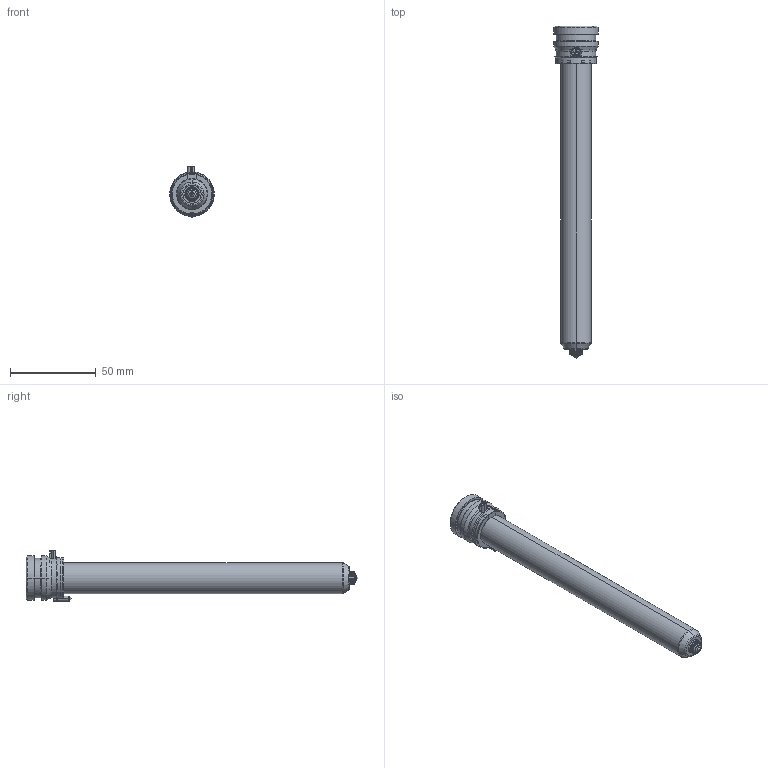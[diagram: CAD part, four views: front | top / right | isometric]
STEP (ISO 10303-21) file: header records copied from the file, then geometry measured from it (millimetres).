
FILE_DESCRIPTION((''),'2;1');
FILE_NAME('TH18176-A-1-PK-JG','2023-12-14T',('umhib'),('Thermoplay S.p.A.'),'PRO/ENGINEER BY PARAMETRIC TECHNOLOGY CORPORATION, 2017170','PRO/ENGINEER BY PARAMETRIC TECHNOLOGY CORPORATION, 2017170','');
FILE_SCHEMA(('CONFIG_CONTROL_DESIGN'));
Length unit declared in the file: millimetre
Products named in the file (1): TH18176-A-1-PK-JG
Bounding box: 26 x 194 x 29.5 mm (x, y, z)
Volume: 38526 mm3; surface area: 27977.6 mm2
Topology: 1 solids, 2 shells, 396 faces, 1032 edges, 641 vertices
Faces by surface type: cylinder 151, plane 85, cone 66, torus 56, bspline 24, sphere 12, extrusion 2
Entity records: 18002 total; most frequent: CARTESIAN_POINT 6093, ORIENTED_EDGE 2040, DIRECTION 2021, EDGE_CURVE 1022, AXIS2_PLACEMENT_3D 811, VERTEX_POINT 641, CIRCLE 440, EDGE_LOOP 416
